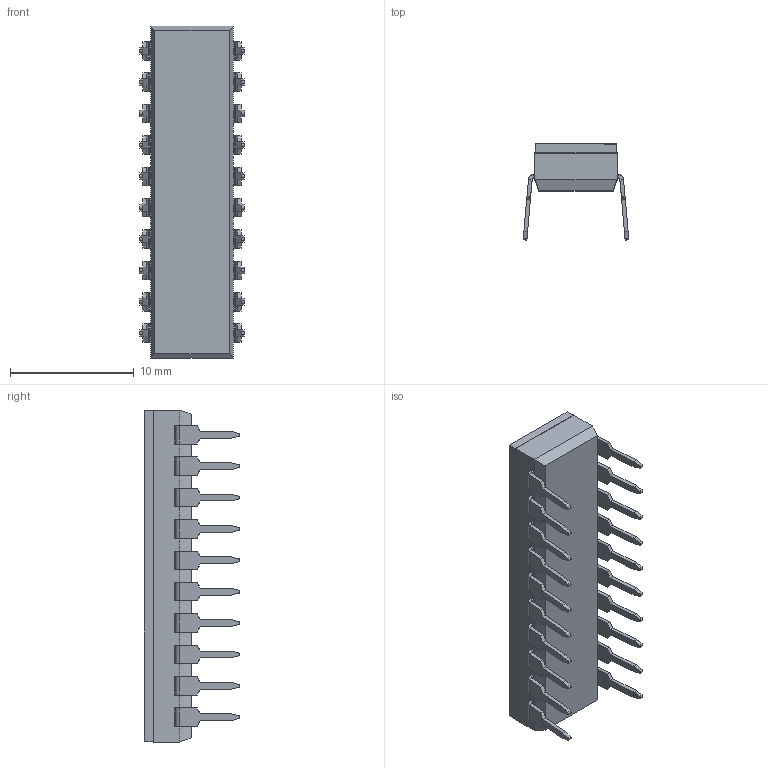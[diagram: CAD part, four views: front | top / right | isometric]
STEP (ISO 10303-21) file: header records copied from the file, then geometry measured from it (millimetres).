
FILE_DESCRIPTION (( 'STEP AP203' ), '1' );
FILE_NAME ('209-10LPS.STEP', '2019-05-24T07:21:48', ( '' ), ( '' ), 'SwSTEP 2.0', 'SolidWorks 2019', '' );
FILE_SCHEMA (( 'CONFIG_CONTROL_DESIGN' ));
Length unit declared in the file: millimetre
Products named in the file (5): 209-02-210 mold housing for 209; 209-40-210 for 209; 219-56-001; 209-83-001-06-01 lead frame; 209-10LPS
Assembly tree (22 placements, depth 2):
  209-10LPS
    209-02-210 mold housing for 209
    209-40-210 for 209
    219-56-001  x10
    209-83-001-06-01 lead frame  x10
Bounding box: 8.55 x 7.76 x 26.88 mm (x, y, z)
Volume: 579.7 mm3; surface area: 1897.8 mm2
Topology: 32 solids, 32 shells, 1373 faces, 3512 edges, 2220 vertices
Faces by surface type: plane 873, bspline 240, cylinder 220, sphere 40
Entity records: 31377 total; most frequent: CARTESIAN_POINT 17227, ORIENTED_EDGE 3128, DIRECTION 1878, EDGE_CURVE 1564, VECTOR 1040, LINE 1040, VERTEX_POINT 1032, EDGE_LOOP 662
